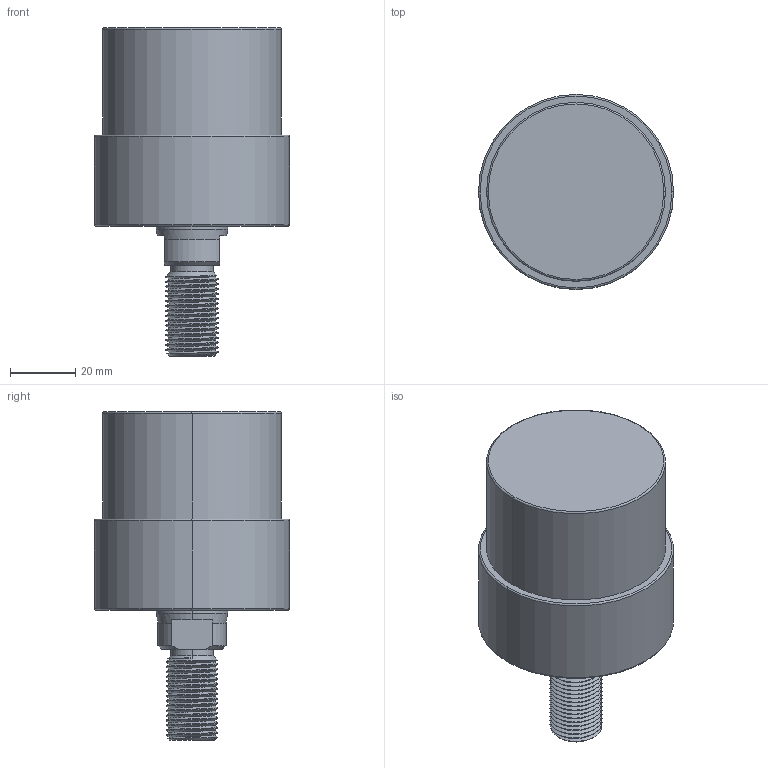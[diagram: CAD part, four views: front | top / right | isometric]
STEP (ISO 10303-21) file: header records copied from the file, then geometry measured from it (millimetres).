
FILE_DESCRIPTION (( 'STEP AP203' ), '1' );
FILE_NAME ('CLLU-055CT-020.STEP', '2020-01-16T00:23:52', ( '' ), ( '' ), 'SwSTEP 2.0', 'SolidWorks 2015', '' );
FILE_SCHEMA (( 'CONFIG_CONTROL_DESIGN' ));
Length unit declared in the file: millimetre
Products named in the file (1): CLLU-055CT-020
Bounding box: 60 x 60 x 101 mm (x, y, z)
Volume: 164810.5 mm3; surface area: 20711.1 mm2
Topology: 1 solids, 1 shells, 101 faces, 253 edges, 155 vertices
Faces by surface type: cylinder 55, cone 26, plane 12, torus 6, bspline 2
Entity records: 4858 total; most frequent: CARTESIAN_POINT 2588, ORIENTED_EDGE 490, DIRECTION 438, EDGE_CURVE 245, AXIS2_PLACEMENT_3D 176, VERTEX_POINT 155, EDGE_LOOP 110, ADVANCED_FACE 101
